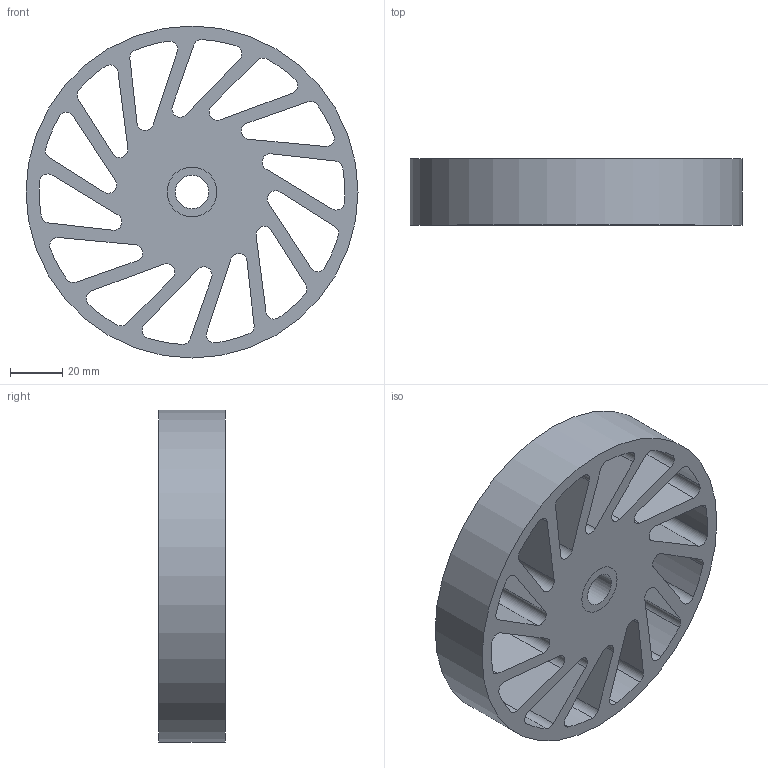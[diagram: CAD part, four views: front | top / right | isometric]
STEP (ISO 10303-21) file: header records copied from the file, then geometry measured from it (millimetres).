
FILE_DESCRIPTION(/* description */ (''),/* implementation_level */ '2;1');
FILE_NAME(/* name */ 'C:\Users\Owner\Desktop\Meridian Stuff\Oilite\NCWOB-450-XXX.stp',/* time_stamp */ '2023-05-22T17:07:17-05:00',/* author */ ('ASG'),/* organization */ ('Meridian Laboratory '),/* preprocessor_version */ 'ST-DEVELOPER v19',/* originating_system */ 'Autodesk Inventor 2023',/* authorisation */ '');
FILE_SCHEMA (('AUTOMOTIVE_DESIGN { 1 0 10303 214 3 1 1 }'));
Length unit declared in the file: inch
Products named in the file (1): NCWOB-440-XXX
Bounding box: 127 x 25.4 x 127 mm (x, y, z)
Volume: 177180.3 mm3; surface area: 58893.3 mm2
Topology: 2 solids, 2 shells, 92 faces, 264 edges, 176 vertices
Faces by surface type: cylinder 60, plane 32
Full cylindrical faces by diameter (mm): 12.738 x1, 19.05 x2, 127 x1
Entity records: 3285 total; most frequent: DIRECTION 570, CARTESIAN_POINT 533, ORIENTED_EDGE 528, EDGE_CURVE 264, AXIS2_PLACEMENT_3D 213, VERTEX_POINT 176, LINE 144, VECTOR 144
